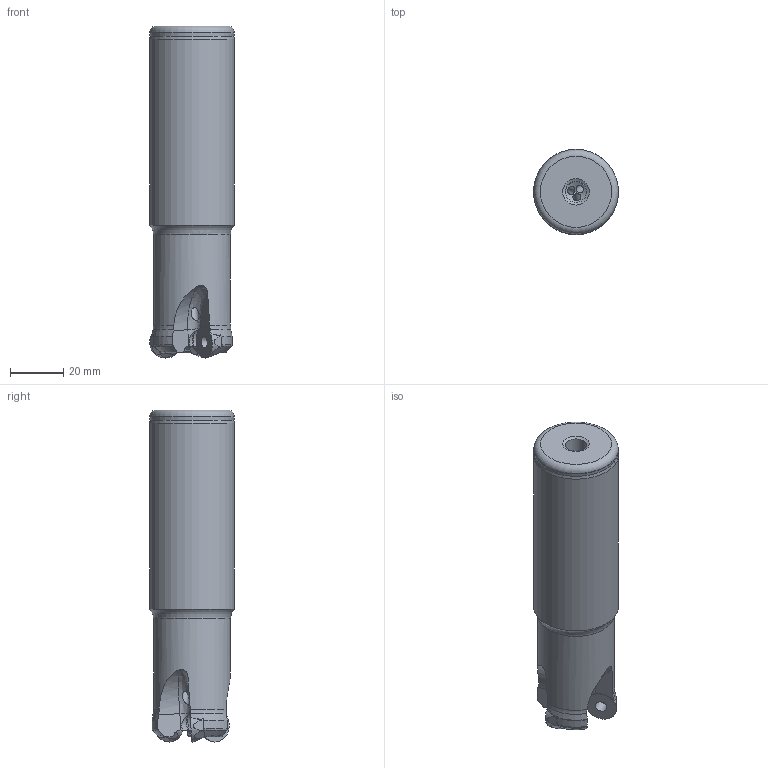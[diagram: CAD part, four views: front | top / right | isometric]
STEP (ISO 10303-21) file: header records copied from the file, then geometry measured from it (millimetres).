
FILE_DESCRIPTION(/* description */ (''),/* implementation_level */ '2;1');
FILE_NAME(/* name */ 'FMRS4032HRP-3S32-HAAS.stp',/* time_stamp */ '2021-12-09T16:15:46+09:00',/* author */ (''),/* organization */ (''),/* preprocessor_version */ 'ST-DEVELOPER v16',/* originating_system */ 'SIEMENS PLM Software NX 10.0',/* authorisation */ '');
FILE_SCHEMA (('AUTOMOTIVE_DESIGN { 1 0 10303 214 3 1 1 1 }'));
Length unit declared in the file: millimetre
Products named in the file (1): user583C6A71u37a
Bounding box: 32 x 32 x 125 mm (x, y, z)
Volume: 82062.2 mm3; surface area: 17337.5 mm2
Topology: 4 solids, 4 shells, 138 faces, 454 edges, 323 vertices
Faces by surface type: cylinder 46, plane 44, torus 26, cone 19, bspline 3
Full cylindrical faces by diameter (mm): 3 x3, 4.5 x3, 8 x1, 29 x1, 31.8 x1, 32 x1
Entity records: 6677 total; most frequent: CARTESIAN_POINT 2387, ORIENTED_EDGE 842, DIRECTION 769, EDGE_CURVE 421, AXIS2_PLACEMENT_3D 341, VERTEX_POINT 311, EDGE_LOOP 169, CIRCLE 139
